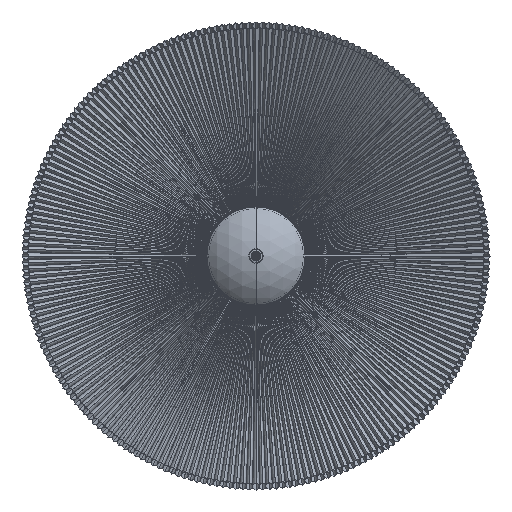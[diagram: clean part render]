
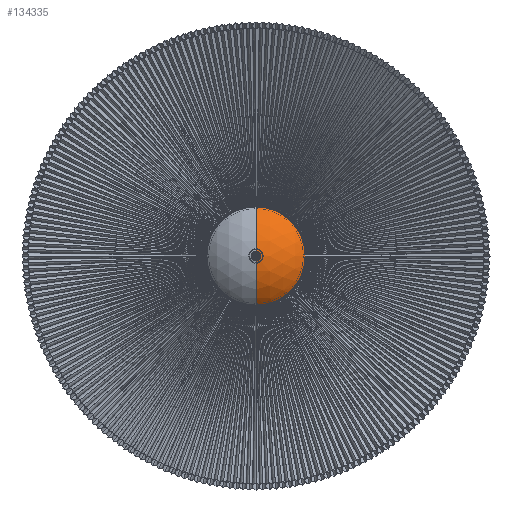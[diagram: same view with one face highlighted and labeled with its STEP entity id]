
A CAD part, front view. The second image highlights one B-rep face of the part: STEP entity #134335.
In plain terms, the highlighted spherical face has radius 103.452 mm.
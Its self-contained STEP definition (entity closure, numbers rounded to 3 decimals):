
#10940 = VERTEX_POINT ( 'NONE', #64784 ) ;
#22868 = DIRECTION ( 'NONE',  ( 0., 0., -1. ) ) ;
#27863 = CARTESIAN_POINT ( 'NONE',  ( 0., -3.389, 0. ) ) ;
#39080 = EDGE_CURVE ( 'NONE', #61505, #220527, #141311, .T. ) ;
#41111 = ORIENTED_EDGE ( 'NONE', *, *, #163823, .T. ) ;
#41397 = CARTESIAN_POINT ( 'NONE',  ( 0., -34.74, -7.332 ) ) ;
#54214 = DIRECTION ( 'NONE',  ( -1., 0., 0. ) ) ;
#54436 = CARTESIAN_POINT ( 'NONE',  ( 0., 68.452, 0. ) ) ;
#57752 = EDGE_CURVE ( 'NONE', #10940, #61505, #129026, .T. ) ;
#59835 = AXIS2_PLACEMENT_3D ( 'NONE', #107095, #232755, #180691 ) ;
#61505 = VERTEX_POINT ( 'NONE', #220325 ) ;
#63210 = DIRECTION ( 'NONE',  ( 1., 0., 0. ) ) ;
#64411 = CARTESIAN_POINT ( 'NONE',  ( 0., 68.452, 0. ) ) ;
#64784 = CARTESIAN_POINT ( 'NONE',  ( 0., -3.389, 74.439 ) ) ;
#75195 = CIRCLE ( 'NONE', #59835, 7.332 ) ;
#86041 = EDGE_CURVE ( 'NONE', #10940, #211085, #142351, .T. ) ;
#104366 = ORIENTED_EDGE ( 'NONE', *, *, #86041, .T. ) ;
#107095 = CARTESIAN_POINT ( 'NONE',  ( 0., -34.74, 0. ) ) ;
#107373 = CARTESIAN_POINT ( 'NONE',  ( 0., 68.452, 0. ) ) ;
#108547 = DIRECTION ( 'NONE',  ( 0., -0.694, -0.72 ) ) ;
#110236 = ORIENTED_EDGE ( 'NONE', *, *, #39080, .F. ) ;
#126875 = CARTESIAN_POINT ( 'NONE',  ( 0., -34.74, 7.332 ) ) ;
#129026 = CIRCLE ( 'NONE', #163632, 74.439 ) ;
#134335 = ADVANCED_FACE ( 'NONE', ( #205282 ), #147368, .T. ) ;
#138041 = DIRECTION ( 'NONE',  ( 0., -0.694, 0.72 ) ) ;
#138413 = AXIS2_PLACEMENT_3D ( 'NONE', #64411, #63210, #138041 ) ;
#141311 = CIRCLE ( 'NONE', #195220, 103.452 ) ;
#142351 = CIRCLE ( 'NONE', #138413, 103.452 ) ;
#147368 = SPHERICAL_SURFACE ( 'NONE', #221805, 103.452 ) ;
#163632 = AXIS2_PLACEMENT_3D ( 'NONE', #27863, #218603, #237917 ) ;
#163823 = EDGE_CURVE ( 'NONE', #211085, #220527, #75195, .T. ) ;
#180691 = DIRECTION ( 'NONE',  ( 0., 0., 1. ) ) ;
#184583 = ORIENTED_EDGE ( 'NONE', *, *, #57752, .F. ) ;
#195220 = AXIS2_PLACEMENT_3D ( 'NONE', #107373, #54214, #108547 ) ;
#205282 = FACE_OUTER_BOUND ( 'NONE', #235248, .T. ) ;
#211085 = VERTEX_POINT ( 'NONE', #126875 ) ;
#218603 = DIRECTION ( 'NONE',  ( 0., 1., 0. ) ) ;
#220325 = CARTESIAN_POINT ( 'NONE',  ( 0., -3.389, -74.439 ) ) ;
#220527 = VERTEX_POINT ( 'NONE', #41397 ) ;
#221805 = AXIS2_PLACEMENT_3D ( 'NONE', #54436, #229409, #22868 ) ;
#229409 = DIRECTION ( 'NONE',  ( -1., 0., 0. ) ) ;
#232755 = DIRECTION ( 'NONE',  ( 0., 1., 0. ) ) ;
#235248 = EDGE_LOOP ( 'NONE', ( #110236, #184583, #104366, #41111 ) ) ;
#237917 = DIRECTION ( 'NONE',  ( 0., 0., 1. ) ) ;
